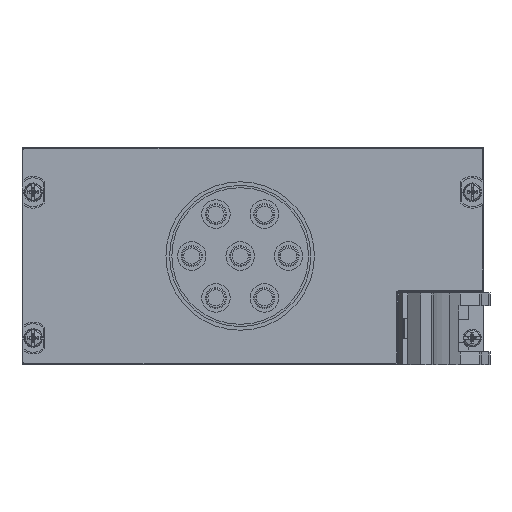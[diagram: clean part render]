
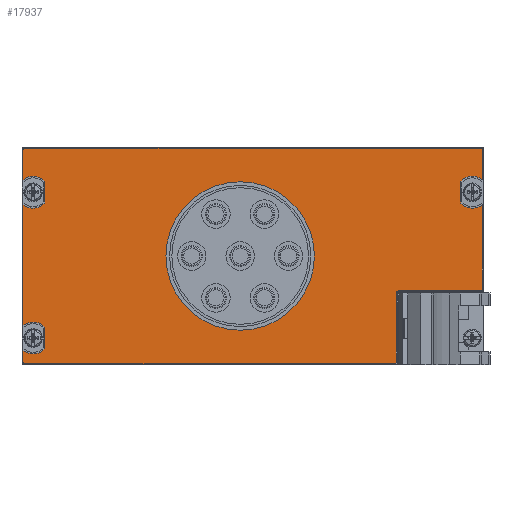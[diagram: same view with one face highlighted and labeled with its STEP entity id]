
A CAD part, left-side view. The second image highlights one B-rep face of the part: STEP entity #17937.
In plain terms, the highlighted planar face has unit normal (-1, 0, 0).
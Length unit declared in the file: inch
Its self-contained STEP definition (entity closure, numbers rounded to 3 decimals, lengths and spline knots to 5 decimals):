
#3130=DIRECTION('',(0.,0.,-1.));
#3131=VECTOR('',#3130,0.32953);
#3132=CARTESIAN_POINT('',(-0.22,0.55444,2.266));
#3133=LINE('',#3132,#3131);
#3150=DIRECTION('',(0.,0.,-1.));
#3151=VECTOR('',#3150,0.32953);
#3152=CARTESIAN_POINT('',(-0.22,-4.49056,2.266));
#3153=LINE('',#3152,#3151);
#3170=DIRECTION('',(0.,0.,-1.));
#3171=VECTOR('',#3170,0.92953);
#3172=CARTESIAN_POINT('',(-0.22,-4.49056,1.66753));
#3173=LINE('',#3172,#3171);
#3182=DIRECTION('',(0.,-1.,0.));
#3183=VECTOR('',#3182,0.905);
#3184=CARTESIAN_POINT('',(-0.22,-3.56556,0.718));
#3185=LINE('',#3184,#3183);
#3190=CARTESIAN_POINT('',(-0.22,-3.56556,0.698));
#3191=DIRECTION('',(1.,0.,0.));
#3192=DIRECTION('',(0.,1.,0.));
#3193=AXIS2_PLACEMENT_3D('',#3190,#3191,#3192);
#3199=DIRECTION('',(0.,0.,1.));
#3200=VECTOR('',#3199,0.76);
#3201=CARTESIAN_POINT('',(-0.22,-3.54556,-0.062));
#3202=LINE('',#3201,#3200);
#3239=DIRECTION('',(0.,0.,-1.));
#3240=VECTOR('',#3239,1.33107);
#3241=CARTESIAN_POINT('',(-0.22,0.55444,1.66753));
#3242=LINE('',#3241,#3240);
#3251=CARTESIAN_POINT('',(-0.22,0.53444,2.266));
#3252=DIRECTION('',(-1.,0.,0.));
#3253=DIRECTION('',(0.,0.,1.));
#3254=AXIS2_PLACEMENT_3D('',#3251,#3252,#3253);
#3256=DIRECTION('',(0.,-1.,0.));
#3257=VECTOR('',#3256,5.005);
#3258=CARTESIAN_POINT('',(-0.22,0.53444,2.286));
#3259=LINE('',#3258,#3257);
#3260=CARTESIAN_POINT('',(-0.22,-4.47056,2.266));
#3261=DIRECTION('',(-1.,0.,0.));
#3262=DIRECTION('',(0.,-1.,0.));
#3263=AXIS2_PLACEMENT_3D('',#3260,#3261,#3262);
#3265=CARTESIAN_POINT('',(-0.22,-4.37856,1.802));
#3266=DIRECTION('',(-1.,0.,0.));
#3267=DIRECTION('',(0.,-0.64,0.768));
#3268=AXIS2_PLACEMENT_3D('',#3265,#3266,#3267);
#3270=DIRECTION('',(0.,0.,-1.));
#3271=VECTOR('',#3270,0.23651);
#3272=CARTESIAN_POINT('',(-0.22,-4.24956,1.92025));
#3273=LINE('',#3272,#3271);
#3274=CARTESIAN_POINT('',(-0.22,-4.37856,1.802));
#3275=DIRECTION('',(-1.,0.,0.));
#3276=DIRECTION('',(0.,0.737,-0.676));
#3277=AXIS2_PLACEMENT_3D('',#3274,#3275,#3276);
#3279=CARTESIAN_POINT('',(-0.22,-4.47056,0.738));
#3280=DIRECTION('',(-1.,0.,0.));
#3281=DIRECTION('',(0.,0.,-1.));
#3282=AXIS2_PLACEMENT_3D('',#3279,#3280,#3281);
#3284=CARTESIAN_POINT('',(-0.22,-3.52556,-0.062));
#3285=DIRECTION('',(-1.,0.,0.));
#3286=DIRECTION('',(0.,0.,-1.));
#3287=AXIS2_PLACEMENT_3D('',#3284,#3285,#3286);
#3289=DIRECTION('',(0.,-1.,0.));
#3290=VECTOR('',#3289,4.06);
#3291=CARTESIAN_POINT('',(-0.22,0.53444,-0.082));
#3292=LINE('',#3291,#3290);
#3293=CARTESIAN_POINT('',(-0.22,0.53444,-0.062));
#3294=DIRECTION('',(-1.,0.,0.));
#3295=DIRECTION('',(0.,1.,0.));
#3296=AXIS2_PLACEMENT_3D('',#3293,#3294,#3295);
#3298=DIRECTION('',(0.,0.,-1.));
#3299=VECTOR('',#3298,0.12953);
#3300=CARTESIAN_POINT('',(-0.22,0.55444,0.06753));
#3301=LINE('',#3300,#3299);
#3302=CARTESIAN_POINT('',(-0.22,0.44244,0.202));
#3303=DIRECTION('',(1.,0.,0.));
#3304=DIRECTION('',(0.,-0.737,-0.676));
#3305=AXIS2_PLACEMENT_3D('',#3302,#3303,#3304);
#3307=DIRECTION('',(0.,0.,-1.));
#3308=VECTOR('',#3307,0.23651);
#3309=CARTESIAN_POINT('',(-0.22,0.31344,0.32025));
#3310=LINE('',#3309,#3308);
#3311=CARTESIAN_POINT('',(-0.22,0.44244,0.202));
#3312=DIRECTION('',(1.,0.,0.));
#3313=DIRECTION('',(0.,0.64,0.768));
#3314=AXIS2_PLACEMENT_3D('',#3311,#3312,#3313);
#3316=CARTESIAN_POINT('',(-0.22,0.44244,1.802));
#3317=DIRECTION('',(-1.,0.,0.));
#3318=DIRECTION('',(0.,0.64,-0.768));
#3319=AXIS2_PLACEMENT_3D('',#3316,#3317,#3318);
#3321=DIRECTION('',(0.,0.,1.));
#3322=VECTOR('',#3321,0.23651);
#3323=CARTESIAN_POINT('',(-0.22,0.31344,1.68375));
#3324=LINE('',#3323,#3322);
#3325=CARTESIAN_POINT('',(-0.22,0.44244,1.802));
#3326=DIRECTION('',(-1.,0.,0.));
#3327=DIRECTION('',(0.,-0.737,0.676));
#3328=AXIS2_PLACEMENT_3D('',#3325,#3326,#3327);
#3330=CARTESIAN_POINT('',(-0.22,-1.83056,1.102));
#3331=DIRECTION('',(-1.,0.,0.));
#3332=DIRECTION('',(0.,1.,0.));
#3333=AXIS2_PLACEMENT_3D('',#3330,#3331,#3332);
#3335=CARTESIAN_POINT('',(-0.22,-1.83056,1.102));
#3336=DIRECTION('',(-1.,0.,0.));
#3337=DIRECTION('',(0.,-1.,0.));
#3338=AXIS2_PLACEMENT_3D('',#3335,#3336,#3337);
#12020=CARTESIAN_POINT('',(-0.22,0.55444,0.33647));
#12021=CARTESIAN_POINT('',(-0.22,0.31344,0.32025));
#12022=VERTEX_POINT('',#12020);
#12023=VERTEX_POINT('',#12021);
#12024=CARTESIAN_POINT('',(-0.22,0.31344,0.08375));
#12025=VERTEX_POINT('',#12024);
#12026=CARTESIAN_POINT('',(-0.22,0.55444,0.06753));
#12027=VERTEX_POINT('',#12026);
#12028=CARTESIAN_POINT('',(-0.22,0.55444,1.66753));
#12029=CARTESIAN_POINT('',(-0.22,0.31344,1.68375));
#12030=VERTEX_POINT('',#12028);
#12031=VERTEX_POINT('',#12029);
#12032=CARTESIAN_POINT('',(-0.22,0.31344,1.92025));
#12033=VERTEX_POINT('',#12032);
#12034=CARTESIAN_POINT('',(-0.22,0.55444,1.93647));
#12035=VERTEX_POINT('',#12034);
#12036=CARTESIAN_POINT('',(-0.22,-1.01556,1.102));
#12037=CARTESIAN_POINT('',(-0.22,-2.64556,1.102));
#12038=VERTEX_POINT('',#12036);
#12039=VERTEX_POINT('',#12037);
#12040=CARTESIAN_POINT('',(-0.22,-3.54556,0.698));
#12041=CARTESIAN_POINT('',(-0.22,-3.56556,0.718));
#12042=VERTEX_POINT('',#12040);
#12043=VERTEX_POINT('',#12041);
#12044=CARTESIAN_POINT('',(-0.22,0.53444,2.286));
#12045=CARTESIAN_POINT('',(-0.22,0.55444,2.266));
#12046=VERTEX_POINT('',#12044);
#12047=VERTEX_POINT('',#12045);
#12048=CARTESIAN_POINT('',(-0.22,0.55444,-0.062));
#12049=CARTESIAN_POINT('',(-0.22,0.53444,-0.082));
#12050=VERTEX_POINT('',#12048);
#12051=VERTEX_POINT('',#12049);
#12052=CARTESIAN_POINT('',(-0.22,-3.52556,-0.082));
#12053=CARTESIAN_POINT('',(-0.22,-3.54556,-0.062));
#12054=VERTEX_POINT('',#12052);
#12055=VERTEX_POINT('',#12053);
#12056=CARTESIAN_POINT('',(-0.22,-4.47056,2.286));
#12057=VERTEX_POINT('',#12056);
#12058=CARTESIAN_POINT('',(-0.22,-4.47056,0.718));
#12059=CARTESIAN_POINT('',(-0.22,-4.49056,0.738));
#12060=VERTEX_POINT('',#12058);
#12061=VERTEX_POINT('',#12059);
#12062=CARTESIAN_POINT('',(-0.22,-4.49056,2.266));
#12063=VERTEX_POINT('',#12062);
#12064=CARTESIAN_POINT('',(-0.22,-4.49056,1.93647));
#12065=VERTEX_POINT('',#12064);
#12066=CARTESIAN_POINT('',(-0.22,-4.49056,1.66753));
#12067=VERTEX_POINT('',#12066);
#12068=CARTESIAN_POINT('',(-0.22,-4.24956,1.92025));
#12069=VERTEX_POINT('',#12068);
#12070=CARTESIAN_POINT('',(-0.22,-4.24956,1.68375));
#12071=VERTEX_POINT('',#12070);
#17900=CARTESIAN_POINT('',(-0.22,0.44244,0.202));
#17901=DIRECTION('',(-1.,0.,0.));
#17902=DIRECTION('',(0.,0.,1.));
#17903=AXIS2_PLACEMENT_3D('',#17900,#17901,#17902);
#17904=PLANE('',#17903);
#17905=ORIENTED_EDGE('',*,*,#17587,.F.);
#17906=ORIENTED_EDGE('',*,*,#17601,.T.);
#17907=ORIENTED_EDGE('',*,*,#17615,.F.);
#17908=ORIENTED_EDGE('',*,*,#17629,.T.);
#17909=ORIENTED_EDGE('',*,*,#17643,.T.);
#17910=ORIENTED_EDGE('',*,*,#17657,.T.);
#17911=ORIENTED_EDGE('',*,*,#17671,.T.);
#17912=ORIENTED_EDGE('',*,*,#17685,.T.);
#17913=ORIENTED_EDGE('',*,*,#17699,.F.);
#17914=ORIENTED_EDGE('',*,*,#17713,.F.);
#17915=ORIENTED_EDGE('',*,*,#17727,.F.);
#17916=ORIENTED_EDGE('',*,*,#17741,.F.);
#17917=ORIENTED_EDGE('',*,*,#17755,.F.);
#17918=ORIENTED_EDGE('',*,*,#17769,.F.);
#17919=ORIENTED_EDGE('',*,*,#17783,.F.);
#17920=ORIENTED_EDGE('',*,*,#17797,.F.);
#17921=ORIENTED_EDGE('',*,*,#17811,.F.);
#17922=ORIENTED_EDGE('',*,*,#17825,.F.);
#17923=ORIENTED_EDGE('',*,*,#17839,.F.);
#17924=ORIENTED_EDGE('',*,*,#17853,.F.);
#17925=ORIENTED_EDGE('',*,*,#17867,.T.);
#17926=ORIENTED_EDGE('',*,*,#17881,.T.);
#17927=ORIENTED_EDGE('',*,*,#17894,.T.);
#17928=ORIENTED_EDGE('',*,*,#17572,.F.);
#17929=EDGE_LOOP('',(#17905,#17906,#17907,#17908,#17909,#17910,#17911,#17912,
#17913,#17914,#17915,#17916,#17917,#17918,#17919,#17920,#17921,#17922,#17923,
#17924,#17925,#17926,#17927,#17928));
#17930=FACE_OUTER_BOUND('',#17929,.F.);
#17932=ORIENTED_EDGE('',*,*,#17931,.T.);
#17934=ORIENTED_EDGE('',*,*,#17933,.T.);
#17935=EDGE_LOOP('',(#17932,#17934));
#17936=FACE_BOUND('',#17935,.F.);
#17937=ADVANCED_FACE('',(#17930,#17936),#17904,.T.);
#3194=CIRCLE('',#3193,0.02);
#3255=CIRCLE('',#3254,0.02);
#3264=CIRCLE('',#3263,0.02);
#3269=CIRCLE('',#3268,0.175);
#3278=CIRCLE('',#3277,0.175);
#3283=CIRCLE('',#3282,0.02);
#3288=CIRCLE('',#3287,0.02);
#3297=CIRCLE('',#3296,0.02);
#3306=CIRCLE('',#3305,0.175);
#3315=CIRCLE('',#3314,0.175);
#3320=CIRCLE('',#3319,0.175);
#3329=CIRCLE('',#3328,0.175);
#3334=CIRCLE('',#3333,0.815);
#3339=CIRCLE('',#3338,0.815);
#17572=EDGE_CURVE('',#12047,#12035,#3133,.T.);
#17587=EDGE_CURVE('',#12046,#12047,#3255,.T.);
#17601=EDGE_CURVE('',#12046,#12057,#3259,.T.);
#17615=EDGE_CURVE('',#12063,#12057,#3264,.T.);
#17629=EDGE_CURVE('',#12063,#12065,#3153,.T.);
#17643=EDGE_CURVE('',#12065,#12069,#3269,.T.);
#17657=EDGE_CURVE('',#12069,#12071,#3273,.T.);
#17671=EDGE_CURVE('',#12071,#12067,#3278,.T.);
#17685=EDGE_CURVE('',#12067,#12061,#3173,.T.);
#17699=EDGE_CURVE('',#12060,#12061,#3283,.T.);
#17713=EDGE_CURVE('',#12043,#12060,#3185,.T.);
#17727=EDGE_CURVE('',#12042,#12043,#3194,.T.);
#17741=EDGE_CURVE('',#12055,#12042,#3202,.T.);
#17755=EDGE_CURVE('',#12054,#12055,#3288,.T.);
#17769=EDGE_CURVE('',#12051,#12054,#3292,.T.);
#17783=EDGE_CURVE('',#12050,#12051,#3297,.T.);
#17797=EDGE_CURVE('',#12027,#12050,#3301,.T.);
#17811=EDGE_CURVE('',#12025,#12027,#3306,.T.);
#17825=EDGE_CURVE('',#12023,#12025,#3310,.T.);
#17839=EDGE_CURVE('',#12022,#12023,#3315,.T.);
#17853=EDGE_CURVE('',#12030,#12022,#3242,.T.);
#17867=EDGE_CURVE('',#12030,#12031,#3320,.T.);
#17881=EDGE_CURVE('',#12031,#12033,#3324,.T.);
#17894=EDGE_CURVE('',#12033,#12035,#3329,.T.);
#17931=EDGE_CURVE('',#12038,#12039,#3334,.T.);
#17933=EDGE_CURVE('',#12039,#12038,#3339,.T.);
